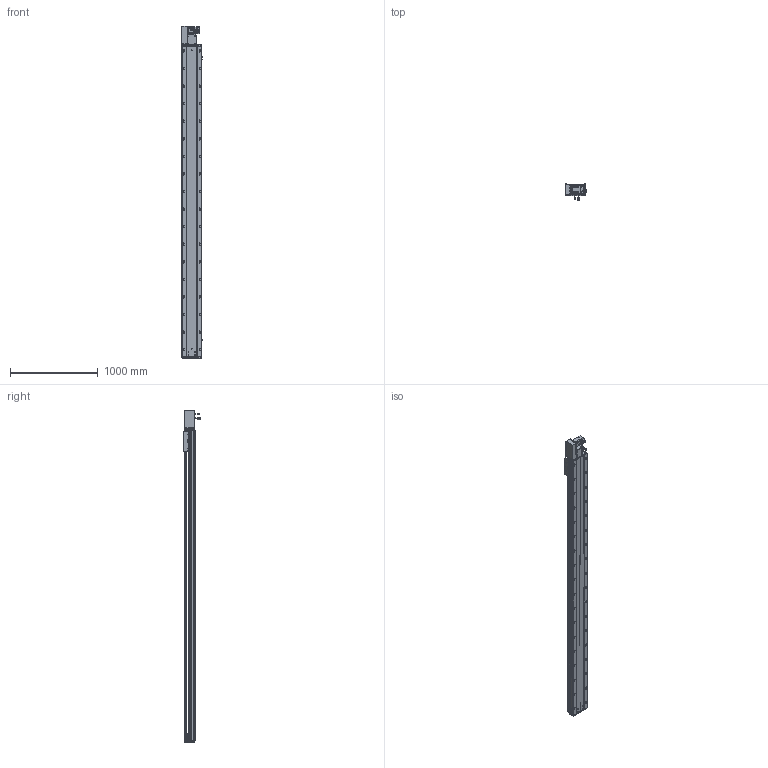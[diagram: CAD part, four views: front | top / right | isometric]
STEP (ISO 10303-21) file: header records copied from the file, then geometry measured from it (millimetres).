
FILE_DESCRIPTION (( 'STEP AP203' ), '1' );
FILE_NAME ('RY220-T-300-LK.SLDASM_3200.step', '2022-07-25T08:16:56', ( '' ), ( '' ), 'SwSTEP 2.0', 'SolidWorks 2016', '' );
FILE_SCHEMA (( 'CONFIG_CONTROL_DESIGN' ));
Length unit declared in the file: millimetre
Products named in the file (14): RY220-T菁釱-300_3200; RY220-同步轮副支撑座6304×2; RY220-T-湍謫欶(鍼踢); RY220翋肮祭謫裔啣; RY220-T-蛌殏萇儂假蚾啣(750W); 滅袉蝶18-15; 覜茼ん672; 110A-T-肮祭謫釱傷裔; 怢湛750W_ECMA-CX0807ES; RY220-T-300-奻裔啣_3200; RY220-俋离672覜茼んえ; RY220圉猾敕々湍臏賑輸; RY220-T-300-LK.SLDASM_3200; RY220翋肮祭謫釱
Assembly tree (18 placements, depth 2):
  RY220-T-300-LK.SLDASM_3200
    RY220-T菁釱-300_3200
    RY220翋肮祭謫釱
    覜茼ん672  x3
    RY220圉猾敕々湍臏賑輸
    RY220-T-300-奻裔啣_3200
    RY220-俋离672覜茼んえ
    滅袉蝶18-15  x3
    RY220翋肮祭謫裔啣  x2
    110A-T-肮祭謫釱傷裔
    怢湛750W_ECMA-CX0807ES
    RY220-T-湍謫欶(鍼踢)
    RY220-T-蛌殏萇儂假蚾啣(750W)
    RY220-同步轮副支撑座6304×2
Bounding box: 239.7 x 198.77 x 3779 mm (x, y, z)
Volume: 26499746.2 mm3; surface area: 8220495.6 mm2
Topology: 19 solids, 19 shells, 3066 faces, 8483 edges, 5302 vertices
Faces by surface type: cylinder 1522, plane 1069, cone 393, bspline 56, sphere 16, torus 10
Entity records: 102243 total; most frequent: CARTESIAN_POINT 28783, ORIENTED_EDGE 15162, DIRECTION 14688, EDGE_CURVE 7581, AXIS2_PLACEMENT_3D 5316, VERTEX_POINT 4926, VECTOR 4056, LINE 4056
